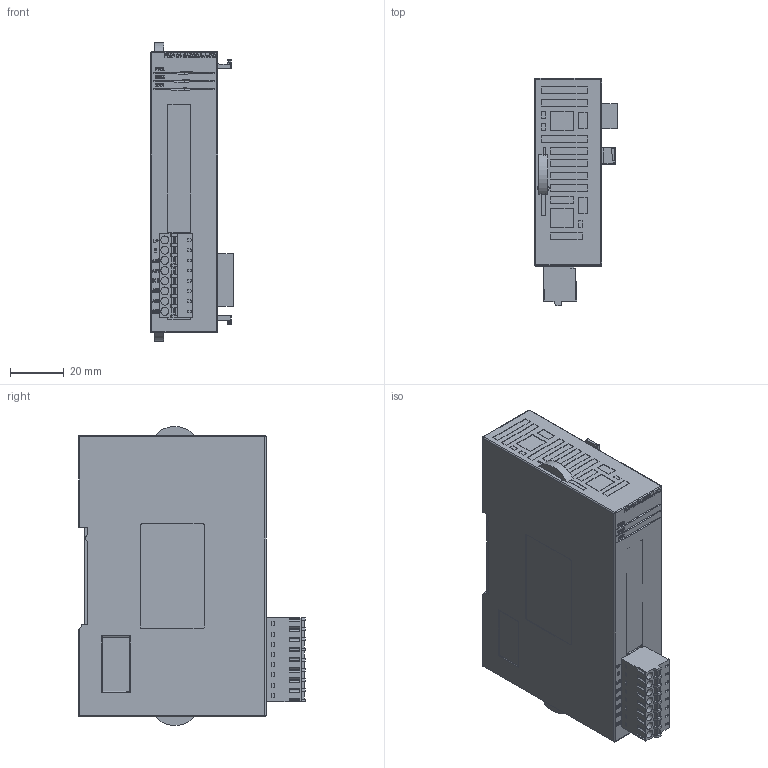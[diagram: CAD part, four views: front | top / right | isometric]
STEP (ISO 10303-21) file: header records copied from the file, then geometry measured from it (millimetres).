
FILE_DESCRIPTION(('STEP AP242'), '1');
FILE_NAME('PMP-01-2AD2DA-A-ED', '2025-08-15T17:21:51', ('PROMPOWER'), (''), 'C3D Converter', 'C3D Toolkit', '');
FILE_SCHEMA(('AP242_MANAGED_MODEL_BASED_3D_ENGINEERING_MIM_LF { 1 0 10303 442 1 1 4 }'));
Length unit declared in the file: millimetre
Products named in the file (1): PMP-01-2AD2DA-A-ED
Bounding box: 30.8 x 84.71 x 111.69 mm (x, y, z)
Surface area: 29152.9 mm2
Topology: 18 solids, 35 shells, 1381 faces, 3692 edges, 2464 vertices
Faces by surface type: plane 996, bspline 161, extrusion 138, cylinder 86
Full cylindrical faces by diameter (mm): 3 x8
Entity records: 84200 total; most frequent: CARTESIAN_POINT 40443, ORIENTED_EDGE 7262, DIRECTION 5283, EDGE_CURVE 3683, VECTOR 2691, LINE 2553, VERTEX_POINT 2464, EDGE_LOOP 1553
